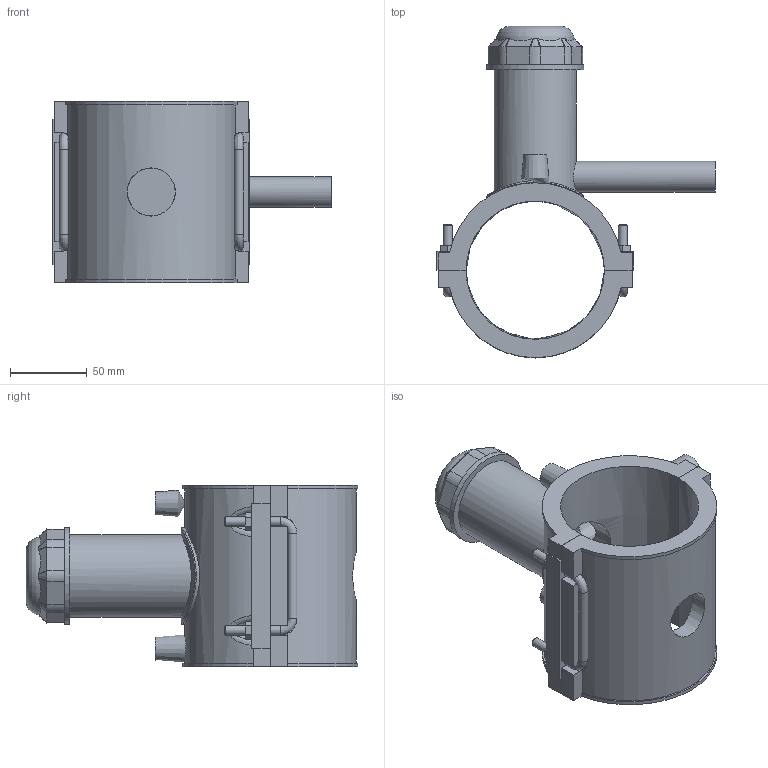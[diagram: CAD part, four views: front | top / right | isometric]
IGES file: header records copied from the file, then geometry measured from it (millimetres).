
Global section: file name: 496304090020.ipt; native system: Autodesk Inventor 2015; preprocessor: unknown; author: KIM; date: 20190124.130731; units: millimetre
Bounding box: 181 x 215.92 x 118 mm (x, y, z)
Volume: 570501.2 mm3; surface area: 145268.8 mm2
Topology: 2 solids, 4 shells, 224 faces, 564 edges, 362 vertices
Faces by surface type: plane 125, cylinder 36, revolution 28, bspline 21, cone 14
Full cylindrical faces by diameter (mm): 4 x2, 6 x8, 20 x1, 53.55 x1, 63 x2
